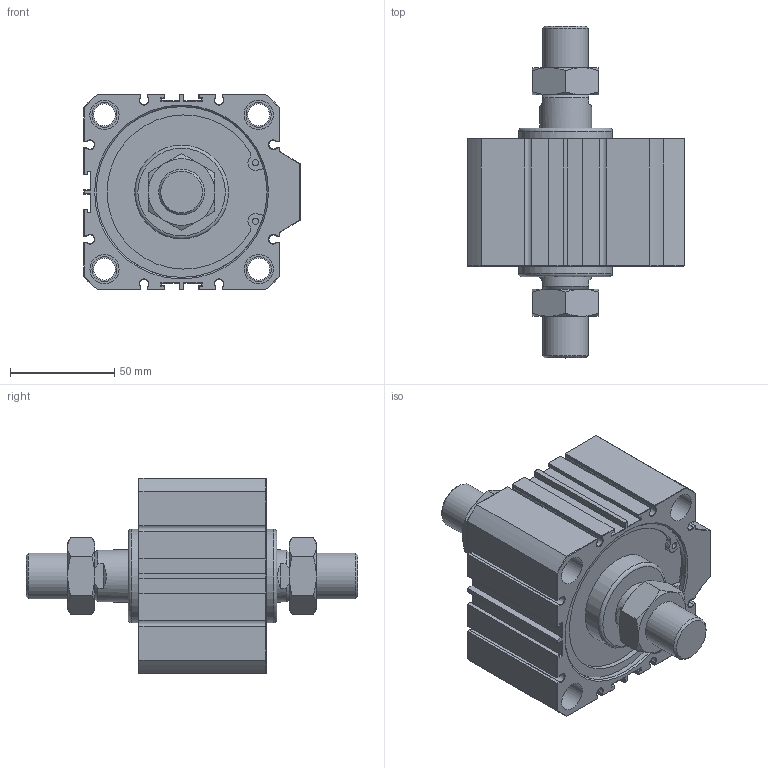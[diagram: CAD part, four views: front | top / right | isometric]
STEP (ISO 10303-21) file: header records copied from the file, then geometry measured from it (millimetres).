
FILE_DESCRIPTION(/* description */ (''),/* implementation_level */ '2;1');
FILE_NAME(/* name */ 'AJC-SWM80X10W',/* time_stamp */ '2019-07-19T15:02:57+08:00',/* author */ ('JEFF HUANG'),/* organization */ ('TAIWAN AMAC CLAMP INDUSTRIAL CO., LTD.'),/* preprocessor_version */ 'ST-DEVELOPER v16.7',/* originating_system */ 'DEX',/* authorisation */ $);
FILE_SCHEMA (('AUTOMOTIVE_DESIGN {1 0 10303 214 3 1 1}'));
Length unit declared in the file: millimetre
Products named in the file (1): AJC-SWM80X10W
Bounding box: 104 x 159.3 x 94 mm (x, y, z)
Volume: 532874.8 mm3; surface area: 73134.7 mm2
Topology: 1 solids, 1 shells, 432 faces, 968 edges, 538 vertices
Faces by surface type: plane 266, cone 90, cylinder 74, torus 2
Full cylindrical faces by diameter (mm): 3 x4, 10.5 x4, 12 x8, 14 x8, 15.806 x2, 22 x2, 25 x2, 45 x2, 82 x2
Entity records: 14258 total; most frequent: CARTESIAN_POINT 2083, DIRECTION 1898, ORIENTED_EDGE 1776, EDGE_CURVE 888, AXIS2_PLACEMENT_3D 649, LINE 600, VECTOR 600, VERTEX_POINT 532
